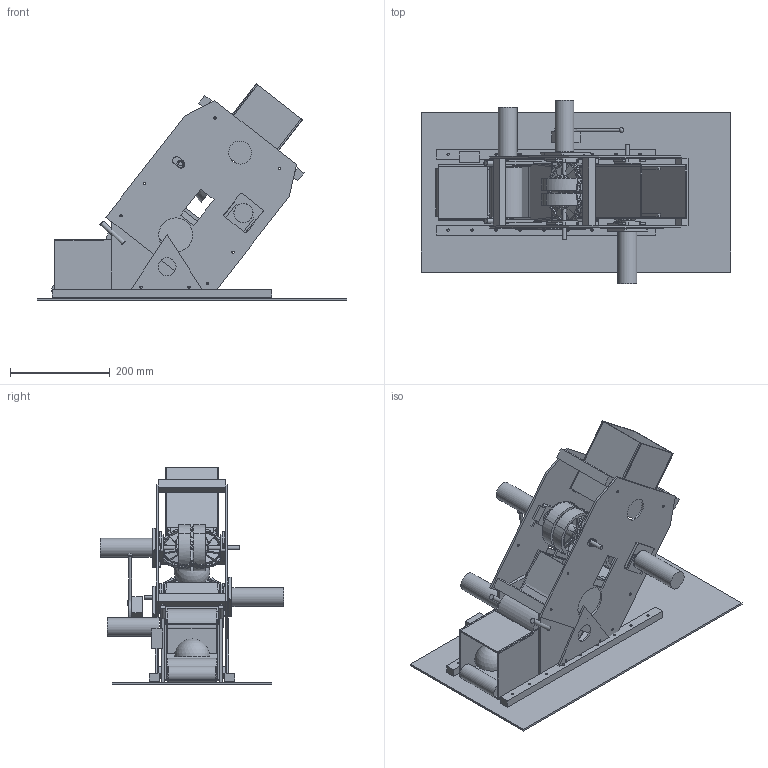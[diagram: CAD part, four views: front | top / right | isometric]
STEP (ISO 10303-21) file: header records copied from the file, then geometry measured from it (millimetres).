
FILE_DESCRIPTION(('Open CASCADE Model'),'2;1');
FILE_NAME('Open CASCADE Shape Model','2026-09-20T23:20:42',('Author'),( 'Open CASCADE'),'Open CASCADE STEP processor 7.8','Open CASCADE 7.8' ,'Unknown');
FILE_SCHEMA(('AUTOMOTIVE_DESIGN { 1 0 10303 214 1 1 1 1 }'));
Length unit declared in the file: millimetre
Products named in the file (81): biobuzz_launcher_pollen; 00_chassis_xy_reference; base_rail_-1; angle_gusset_-1; base_rail_+1; angle_gusset_+1; horizontal_feed_floor; horizontal_feed_roof; horizontal_feed_side_-1; horizontal_feed_side_+1; horizontal_belt_envelope; horizontal_belt_pulley_-95; horizontal_belt_pulley_48; transition_guide_-1; transition_guide_+1; transition_side_-1; transition_side_+1; kick_roller_envelope; upper_guide_roller_envelope; kick_support_cheek_-1; spring_guide_arm_-1; kick_support_cheek_+1; spring_guide_arm_+1; feed_motor_envelope; feed_gate_servo_envelope; feed_gate_flap_envelope; horizontal_path_ball_1; horizontal_path_ball_2; horizontal_path_ball_3; main_side_plate_-1; main_side_plate_+1; crossmember_-162_-118; crossmember_-162_118; crossmember_128_-118; crossmember_128_118; slide_rail_-1_-1; carriage_-1_-1; slide_rail_-1_+1; carriage_-1_+1; slide_rail_+1_-1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
Assembly tree (80 placements, depth 2):
  biobuzz_launcher_pollen
    00_chassis_xy_reference
    base_rail_-1
    angle_gusset_-1
    base_rail_+1
    angle_gusset_+1
    horizontal_feed_floor
    horizontal_feed_roof
    horizontal_feed_side_-1
    horizontal_feed_side_+1
    horizontal_belt_envelope
    horizontal_belt_pulley_-95
    horizontal_belt_pulley_48
    transition_guide_-1
    transition_guide_+1
    transition_side_-1
    transition_side_+1
    kick_roller_envelope
    upper_guide_roller_envelope
    kick_support_cheek_-1
    spring_guide_arm_-1
    kick_support_cheek_+1
    spring_guide_arm_+1
    feed_motor_envelope
    feed_gate_servo_envelope
    feed_gate_flap_envelope
    horizontal_path_ball_1
    horizontal_path_ball_2
    horizontal_path_ball_3
    main_side_plate_-1
    main_side_plate_+1
    crossmember_-162_-118
    crossmember_-162_118
    crossmember_128_-118
    crossmember_128_118
    slide_rail_-1_-1
    carriage_-1_-1
    slide_rail_-1_+1
    carriage_-1_+1
    slide_rail_+1_-1
    carriage_+1_-1
    slide_rail_+1_+1
    carriage_+1_+1
    shaft_upper
    gecko_upper_1
    gecko_upper_2
    bearing_collar_upper_-1
    bearing_collar_upper_+1
    motor_mount_upper
    motor_envelope_upper
    shaft_lower
    gecko_lower_1
    gecko_lower_2
    bearing_collar_lower_-1
    bearing_collar_lower_+1
    motor_mount_lower
    motor_envelope_lower
    servo_bracket
    servo_envelope
    servo_double_horn
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Bounding box: 620 x 368 x 433.69 mm (x, y, z)
Volume: 4937698 mm3; surface area: 1852003.8 mm2
Topology: 80 solids, 80 shells, 1669 faces, 4687 edges, 3122 vertices
Faces by surface type: plane 1502, cylinder 159, sphere 8
Full cylindrical faces by diameter (mm): 4.4 x12, 4.6 x34, 6 x3, 8 x2, 10 x2, 14.2 x14, 22 x4, 32 x2, 36 x2, 38 x3, 38.4 x2, 44 x1, 46 x2, 48 x1, 68 x2, 72 x1
Entity records: 117520 total; most frequent: CARTESIAN_POINT 20821, DIRECTION 17819, LINE 12517, VECTOR 12517, ORIENTED_EDGE 9358, PCURVE 9358, DEFINITIONAL_REPRESENTATION 9358, EDGE_CURVE 4679
